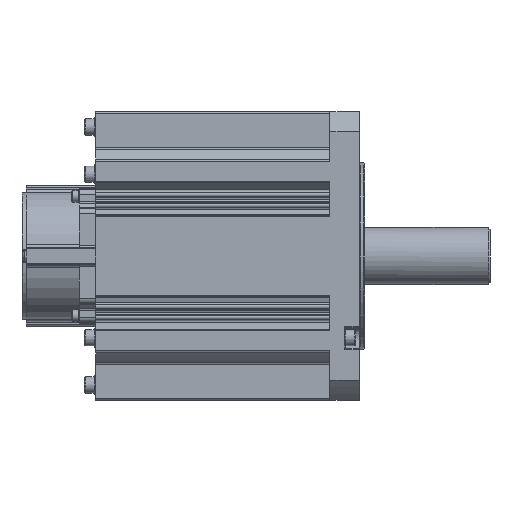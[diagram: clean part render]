
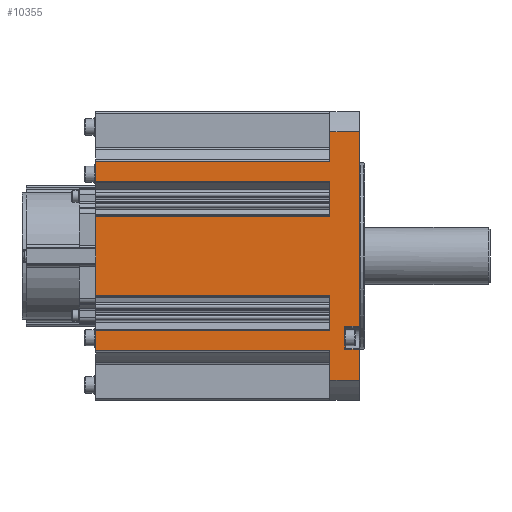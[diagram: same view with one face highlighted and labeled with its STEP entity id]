
A CAD part, front view. The second image highlights one B-rep face of the part: STEP entity #10355.
In plain terms, the highlighted planar face has unit normal (0, -1, 0).
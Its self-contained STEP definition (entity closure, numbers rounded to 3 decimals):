
#213=PLANE('',#11365);
#543=LINE('',#15687,#1456);
#546=LINE('',#15699,#1459);
#842=LINE('',#16942,#1755);
#843=LINE('',#16946,#1756);
#844=LINE('',#16950,#1757);
#845=LINE('',#16956,#1758);
#846=LINE('',#16960,#1759);
#847=LINE('',#16964,#1760);
#848=LINE('',#16970,#1761);
#849=LINE('',#16974,#1762);
#850=LINE('',#16978,#1763);
#884=LINE('',#17130,#1797);
#885=LINE('',#17131,#1798);
#886=LINE('',#17132,#1799);
#891=LINE('',#17148,#1804);
#905=LINE('',#17179,#1818);
#906=LINE('',#17181,#1819);
#907=LINE('',#17183,#1820);
#908=LINE('',#17185,#1821);
#909=LINE('',#17186,#1822);
#1456=VECTOR('',#12320,1000.);
#1459=VECTOR('',#12329,1000.);
#1755=VECTOR('',#13397,1000.);
#1756=VECTOR('',#13402,1000.);
#1757=VECTOR('',#13407,1000.);
#1758=VECTOR('',#13414,1000.);
#1759=VECTOR('',#13419,1000.);
#1760=VECTOR('',#13424,1000.);
#1761=VECTOR('',#13431,1000.);
#1762=VECTOR('',#13436,1000.);
#1763=VECTOR('',#13441,1000.);
#1797=VECTOR('',#13575,1000.);
#1798=VECTOR('',#13576,1000.);
#1799=VECTOR('',#13577,1000.);
#1804=VECTOR('',#13594,1000.);
#1818=VECTOR('',#13630,1000.);
#1819=VECTOR('',#13633,1000.);
#1820=VECTOR('',#13634,1000.);
#1821=VECTOR('',#13635,1000.);
#1822=VECTOR('',#13636,1000.);
#3682=ORIENTED_EDGE('',*,*,#6176,.T.);
#3683=ORIENTED_EDGE('',*,*,#5499,.F.);
#3684=ORIENTED_EDGE('',*,*,#6177,.F.);
#3685=ORIENTED_EDGE('',*,*,#6178,.T.);
#3686=ORIENTED_EDGE('',*,*,#6179,.T.);
#3687=ORIENTED_EDGE('',*,*,#5493,.F.);
#3688=ORIENTED_EDGE('',*,*,#6180,.F.);
#3689=ORIENTED_EDGE('',*,*,#6160,.F.);
#3690=ORIENTED_EDGE('',*,*,#6069,.T.);
#3691=ORIENTED_EDGE('',*,*,#6152,.T.);
#3692=ORIENTED_EDGE('',*,*,#6067,.F.);
#3693=ORIENTED_EDGE('',*,*,#6064,.F.);
#3694=ORIENTED_EDGE('',*,*,#6062,.T.);
#3695=ORIENTED_EDGE('',*,*,#6151,.T.);
#3696=ORIENTED_EDGE('',*,*,#6060,.F.);
#3697=ORIENTED_EDGE('',*,*,#6057,.F.);
#3698=ORIENTED_EDGE('',*,*,#6055,.T.);
#3699=ORIENTED_EDGE('',*,*,#6150,.T.);
#3700=ORIENTED_EDGE('',*,*,#6053,.F.);
#3701=ORIENTED_EDGE('',*,*,#6071,.F.);
#5493=EDGE_CURVE('',#6989,#6990,#543,.T.);
#5499=EDGE_CURVE('',#6995,#6996,#546,.T.);
#6053=EDGE_CURVE('',#7396,#7395,#842,.T.);
#6055=EDGE_CURVE('',#7398,#7397,#843,.T.);
#6057=EDGE_CURVE('',#7398,#7399,#844,.T.);
#6060=EDGE_CURVE('',#7399,#7400,#845,.T.);
#6062=EDGE_CURVE('',#7402,#7401,#846,.T.);
#6064=EDGE_CURVE('',#7402,#7403,#847,.T.);
#6067=EDGE_CURVE('',#7403,#7404,#848,.T.);
#6069=EDGE_CURVE('',#7406,#7405,#849,.T.);
#6071=EDGE_CURVE('',#7407,#7396,#850,.T.);
#6150=EDGE_CURVE('',#7397,#7395,#884,.T.);
#6151=EDGE_CURVE('',#7401,#7400,#885,.T.);
#6152=EDGE_CURVE('',#7405,#7404,#886,.T.);
#6160=EDGE_CURVE('',#7406,#7480,#891,.T.);
#6176=EDGE_CURVE('',#7407,#6996,#905,.T.);
#6177=EDGE_CURVE('',#7486,#6995,#906,.T.);
#6178=EDGE_CURVE('',#7486,#7487,#907,.T.);
#6179=EDGE_CURVE('',#7487,#6990,#908,.T.);
#6180=EDGE_CURVE('',#7480,#6989,#909,.T.);
#6989=VERTEX_POINT('',#15686);
#6990=VERTEX_POINT('',#15688);
#6995=VERTEX_POINT('',#15698);
#6996=VERTEX_POINT('',#15700);
#7395=VERTEX_POINT('',#16939);
#7396=VERTEX_POINT('',#16941);
#7397=VERTEX_POINT('',#16945);
#7398=VERTEX_POINT('',#16947);
#7399=VERTEX_POINT('',#16951);
#7400=VERTEX_POINT('',#16955);
#7401=VERTEX_POINT('',#16959);
#7402=VERTEX_POINT('',#16961);
#7403=VERTEX_POINT('',#16965);
#7404=VERTEX_POINT('',#16969);
#7405=VERTEX_POINT('',#16973);
#7406=VERTEX_POINT('',#16975);
#7407=VERTEX_POINT('',#16979);
#7480=VERTEX_POINT('',#17149);
#7486=VERTEX_POINT('',#17182);
#7487=VERTEX_POINT('',#17184);
#8614=EDGE_LOOP('',(#3682,#3683,#3684,#3685,#3686,#3687,#3688,#3689,#3690,
#3691,#3692,#3693,#3694,#3695,#3696,#3697,#3698,#3699,#3700,#3701));
#9369=FACE_BOUND('',#8614,.T.);
#10355=ADVANCED_FACE('',(#9369),#213,.T.);
#11365=AXIS2_PLACEMENT_3D('',#17180,#13631,#13632);
#12320=DIRECTION('',(0.,0.,-1.));
#12329=DIRECTION('',(0.,0.,-1.));
#13397=DIRECTION('',(-1.,0.,0.));
#13402=DIRECTION('',(-1.,0.,0.));
#13407=DIRECTION('',(0.,0.,1.));
#13414=DIRECTION('',(-1.,0.,0.));
#13419=DIRECTION('',(-1.,0.,0.));
#13424=DIRECTION('',(0.,0.,1.));
#13431=DIRECTION('',(-1.,0.,0.));
#13436=DIRECTION('',(-1.,0.,0.));
#13441=DIRECTION('',(0.,0.,1.));
#13575=DIRECTION('',(0.,0.,-1.));
#13576=DIRECTION('',(0.,0.,-1.));
#13577=DIRECTION('',(0.,0.,-1.));
#13594=DIRECTION('',(0.,0.,1.));
#13630=DIRECTION('',(1.,0.,0.));
#13631=DIRECTION('',(0.,-1.,0.));
#13632=DIRECTION('',(0.,0.,-1.));
#13633=DIRECTION('',(1.,0.,0.));
#13634=DIRECTION('',(0.,0.,1.));
#13635=DIRECTION('',(1.,0.,0.));
#13636=DIRECTION('',(1.,0.,0.));
#15686=CARTESIAN_POINT('',(0.,-88.3,75.996));
#15687=CARTESIAN_POINT('',(0.,-88.3,75.996));
#15688=CARTESIAN_POINT('',(0.,-88.3,-43.));
#15698=CARTESIAN_POINT('',(0.,-88.3,-57.));
#15699=CARTESIAN_POINT('',(0.,-88.3,75.996));
#15700=CARTESIAN_POINT('',(0.,-88.3,-75.996));
#16939=CARTESIAN_POINT('',(-161.5,-88.3,-58.));
#16941=CARTESIAN_POINT('',(-18.,-88.3,-58.));
#16942=CARTESIAN_POINT('',(-18.,-88.3,-58.));
#16945=CARTESIAN_POINT('',(-161.5,-88.3,-45.577));
#16946=CARTESIAN_POINT('',(-18.,-88.3,-45.577));
#16947=CARTESIAN_POINT('',(-18.,-88.3,-45.577));
#16950=CARTESIAN_POINT('',(-18.,-88.3,75.996));
#16951=CARTESIAN_POINT('',(-18.,-88.3,-24.));
#16955=CARTESIAN_POINT('',(-161.5,-88.3,-24.));
#16956=CARTESIAN_POINT('',(-18.,-88.3,-24.));
#16959=CARTESIAN_POINT('',(-161.5,-88.3,24.));
#16960=CARTESIAN_POINT('',(-18.,-88.3,24.));
#16961=CARTESIAN_POINT('',(-18.,-88.3,24.));
#16964=CARTESIAN_POINT('',(-18.,-88.3,75.996));
#16965=CARTESIAN_POINT('',(-18.,-88.3,45.577));
#16969=CARTESIAN_POINT('',(-161.5,-88.3,45.577));
#16970=CARTESIAN_POINT('',(-18.,-88.3,45.577));
#16973=CARTESIAN_POINT('',(-161.5,-88.3,58.));
#16974=CARTESIAN_POINT('',(-18.,-88.3,58.));
#16975=CARTESIAN_POINT('',(-18.,-88.3,58.));
#16978=CARTESIAN_POINT('',(-18.,-88.3,75.996));
#16979=CARTESIAN_POINT('',(-18.,-88.3,-75.996));
#17130=CARTESIAN_POINT('',(-161.5,-88.3,75.996));
#17131=CARTESIAN_POINT('',(-161.5,-88.3,75.996));
#17132=CARTESIAN_POINT('',(-161.5,-88.3,75.996));
#17148=CARTESIAN_POINT('',(-18.,-88.3,75.996));
#17149=CARTESIAN_POINT('',(-18.,-88.3,75.996));
#17179=CARTESIAN_POINT('',(-161.5,-88.3,-75.996));
#17180=CARTESIAN_POINT('',(-161.5,-88.3,75.996));
#17181=CARTESIAN_POINT('',(-9.,-88.3,-57.));
#17182=CARTESIAN_POINT('',(-9.,-88.3,-57.));
#17183=CARTESIAN_POINT('',(-9.,-88.3,75.996));
#17184=CARTESIAN_POINT('',(-9.,-88.3,-43.));
#17185=CARTESIAN_POINT('',(-9.,-88.3,-43.));
#17186=CARTESIAN_POINT('',(-161.5,-88.3,75.996));
